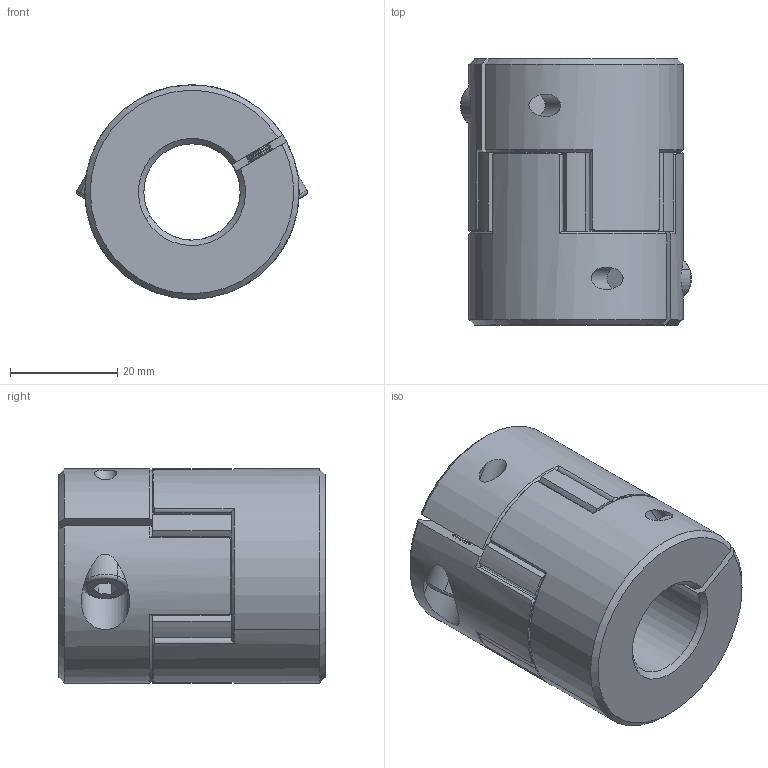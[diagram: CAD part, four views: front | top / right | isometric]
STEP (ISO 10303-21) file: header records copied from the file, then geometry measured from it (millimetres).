
FILE_DESCRIPTION (( 'STEP AP203' ), '1' );
FILE_NAME ('LF-B-D40L50-18-18.STEP', '2021-10-25T03:12:42', ( '' ), ( '' ), 'SwSTEP 2.0', 'SolidWorks 2018', '' );
FILE_SCHEMA (( 'CONFIG_CONTROL_DESIGN' ));
Length unit declared in the file: millimetre
Products named in the file (1): LF-B-D40L50-18-18
Bounding box: 43.11 x 49.7 x 40 mm (x, y, z)
Volume: 48118.3 mm3; surface area: 14546.2 mm2
Topology: 1 solids, 7 shells, 471 faces, 1117 edges, 662 vertices
Faces by surface type: cone 170, cylinder 169, plane 128, torus 4
Entity records: 13972 total; most frequent: CARTESIAN_POINT 2895, DIRECTION 2509, ORIENTED_EDGE 2226, EDGE_CURVE 1113, AXIS2_PLACEMENT_3D 1040, VERTEX_POINT 662, CIRCLE 568, EDGE_LOOP 487
